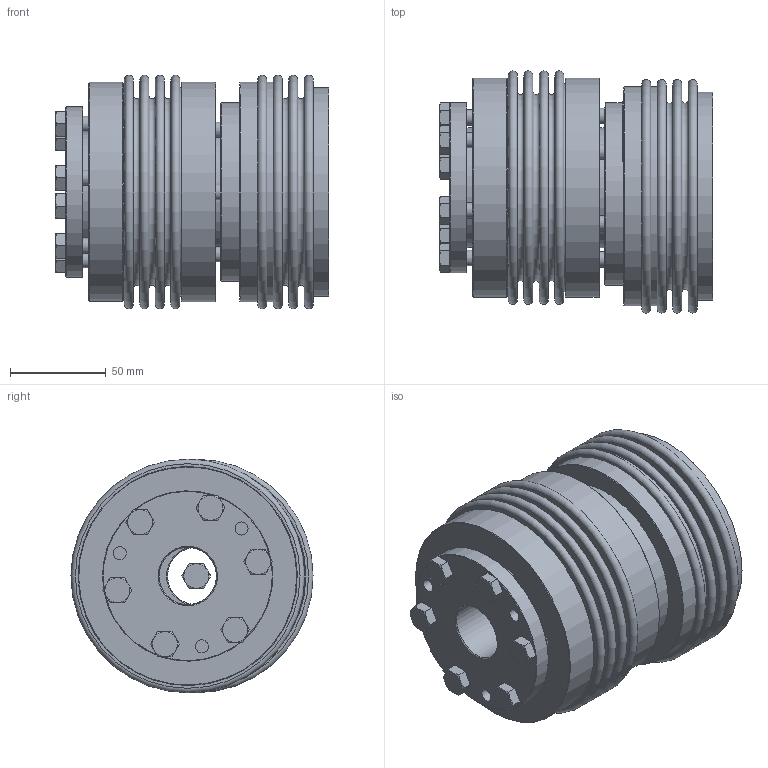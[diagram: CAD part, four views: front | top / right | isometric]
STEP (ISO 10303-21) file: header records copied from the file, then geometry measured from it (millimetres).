
FILE_DESCRIPTION( ( 'Unknown' ), '1' );
FILE_NAME( 'C:/Dokumente und Einstellungen/Sven/Desktop/homepage/cad - homepage/KB5/KB5-500-101.stp', 'Unknown', ( 'Unknown' ), ( 'Unknown' ), 'XStep 1.0', 'Unknown', ' ' );
FILE_SCHEMA( ( 'automotive_design' ) );
Length unit declared in the file: millimetre
Products named in the file (5): Assem1; BK500_Standard; Hex Screw GradeC_ISO_ISO 4018 - M8 x 35-NN; BA500_Standard; KB500_Standard
Bounding box: 142.62 x 126.49 x 121.99 mm (x, y, z)
Volume: 993581.9 mm3; surface area: 355669.5 mm2
Topology: 21 solids, 21 shells, 407 faces, 849 edges, 535 vertices
Faces by surface type: plane 171, cone 127, cylinder 81, torus 28
Full cylindrical faces by diameter (mm): 6.8 x27, 8 x13, 9 x18, 30 x3, 62.6 x3, 89 x3, 93 x3, 107.7 x4, 108.9 x4, 114.5 x3
Entity records: 2478 total; most frequent: DIRECTION 426, CARTESIAN_POINT 377, ORIENTED_EDGE 244, AXIS2_PLACEMENT_3D 207, EDGE_LOOP 198, FACE_OUTER_BOUND 130, EDGE_CURVE 122, VERTEX_POINT 110
